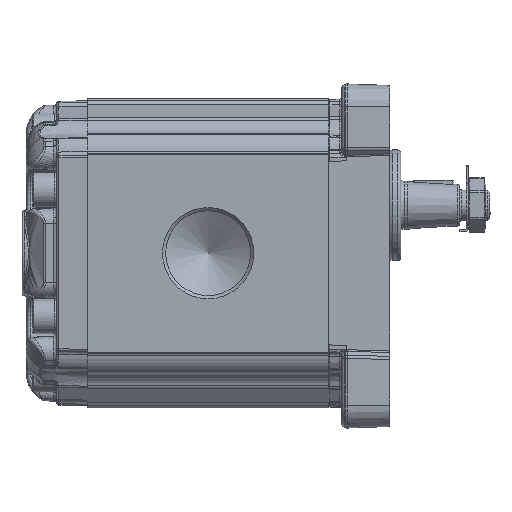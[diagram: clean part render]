
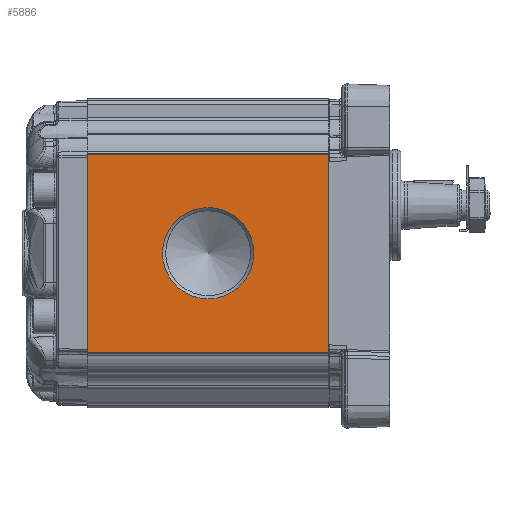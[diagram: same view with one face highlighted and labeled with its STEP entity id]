
A CAD part, left-side view. The second image highlights one B-rep face of the part: STEP entity #5886.
In plain terms, the highlighted planar face has unit normal (-1, 0, 0).
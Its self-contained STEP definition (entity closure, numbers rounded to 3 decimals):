
#5886 = ADVANCED_FACE( '', ( #13313, #13314 ), #13315, .T. );
#13313 = FACE_BOUND( '', #37262, .T. );
#13314 = FACE_OUTER_BOUND( '', #37263, .T. );
#13315 = PLANE( '', #37264 );
#37262 = EDGE_LOOP( '', ( #66896 ) );
#37263 = EDGE_LOOP( '', ( #66897, #66898, #66899, #66900 ) );
#37264 = AXIS2_PLACEMENT_3D( '', #66901, #66902, #66903 );
#66896 = ORIENTED_EDGE( '', *, *, #85381, .T. );
#66897 = ORIENTED_EDGE( '', *, *, #85382, .F. );
#66898 = ORIENTED_EDGE( '', *, *, #81290, .T. );
#66899 = ORIENTED_EDGE( '', *, *, #85383, .F. );
#66900 = ORIENTED_EDGE( '', *, *, #78930, .T. );
#66901 = CARTESIAN_POINT( '', ( -57.5, -127.87, -84.819 ) );
#66902 = DIRECTION( '', ( -1., 0., 0. ) );
#66903 = DIRECTION( '', ( 0., 0., -1. ) );
#78930 = EDGE_CURVE( '', #89471, #89468, #89472, .F. );
#81290 = EDGE_CURVE( '', #93513, #93510, #93514, .F. );
#85381 = EDGE_CURVE( '', #99597, #99597, #99598, .F. );
#85382 = EDGE_CURVE( '', #93513, #89468, #99599, .T. );
#85383 = EDGE_CURVE( '', #89471, #93510, #99600, .T. );
#89468 = VERTEX_POINT( '', #105735 );
#89471 = VERTEX_POINT( '', #105738 );
#89472 = LINE( '', #105739, #105740 );
#93510 = VERTEX_POINT( '', #116822 );
#93513 = VERTEX_POINT( '', #116825 );
#93514 = LINE( '', #116826, #116827 );
#99597 = VERTEX_POINT( '', #133755 );
#99598 = CIRCLE( '', #133756, 20.976 );
#99599 = LINE( '', #133757, #133758 );
#99600 = LINE( '', #133759, #133760 );
#105735 = CARTESIAN_POINT( '', ( -57.5, 111., 45.5 ) );
#105738 = CARTESIAN_POINT( '', ( -57.5, 0., 45.5 ) );
#105739 = CARTESIAN_POINT( '', ( -57.5, -127.87, 45.5 ) );
#105740 = VECTOR( '', #143476, 1000. );
#116822 = CARTESIAN_POINT( '', ( -57.5, 0., -45.5 ) );
#116825 = CARTESIAN_POINT( '', ( -57.5, 111., -45.5 ) );
#116826 = CARTESIAN_POINT( '', ( -57.5, -127.87, -45.5 ) );
#116827 = VECTOR( '', #144615, 1000. );
#133755 = CARTESIAN_POINT( '', ( -57.5, 55.5, -20.976 ) );
#133756 = AXIS2_PLACEMENT_3D( '', #146447, #146448, #146449 );
#133757 = CARTESIAN_POINT( '', ( -57.5, 111., -84.819 ) );
#133758 = VECTOR( '', #146450, 1000. );
#133759 = CARTESIAN_POINT( '', ( -57.5, 0., -44.978 ) );
#133760 = VECTOR( '', #146451, 1000. );
#143476 = DIRECTION( '', ( 0., -1., 0. ) );
#144615 = DIRECTION( '', ( 0., 1., 0. ) );
#146447 = CARTESIAN_POINT( '', ( -57.5, 55.5, 0. ) );
#146448 = DIRECTION( '', ( -1., 0., 0. ) );
#146449 = DIRECTION( '', ( 0., 0., -1. ) );
#146450 = DIRECTION( '', ( 0., 0., 1. ) );
#146451 = DIRECTION( '', ( 0., 0., -1. ) );
